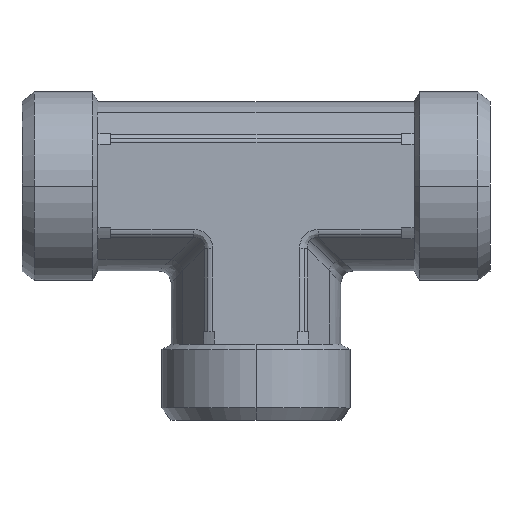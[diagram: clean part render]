
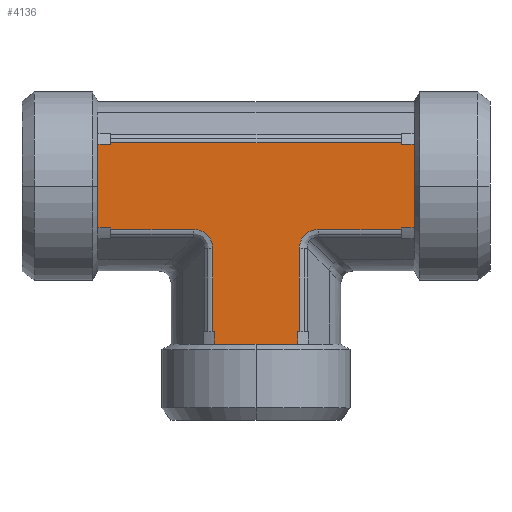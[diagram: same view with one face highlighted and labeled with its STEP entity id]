
A CAD part, left-side view. The second image highlights one B-rep face of the part: STEP entity #4136.
In plain terms, the highlighted planar face has unit normal (-1, 0, 0).
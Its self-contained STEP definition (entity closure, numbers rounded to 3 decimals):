
#668=CARTESIAN_POINT('',(-13.375,25.0,12.));
#669=VERTEX_POINT('',#668);
#769=CARTESIAN_POINT('',(-13.375,0.,-13.));
#770=VERTEX_POINT('',#769);
#843=CARTESIAN_POINT('',(-13.375,-25.0,12.));
#844=VERTEX_POINT('',#843);
#952=CARTESIAN_POINT('',(-13.375,9.887,5.144));
#953=VERTEX_POINT('',#952);
#961=CARTESIAN_POINT('',(-13.375,23.,5.144));
#962=VERTEX_POINT('',#961);
#963=CARTESIAN_POINT('',(-13.375,9.887,5.144));
#964=DIRECTION('',(0.0,1.0,0.0));
#965=VECTOR('',#964,13.113);
#966=LINE('',#963,#965);
#967=EDGE_CURVE('',#953,#962,#966,.T.);
#1320=CARTESIAN_POINT('',(-13.375,-6.856,2.113));
#1321=VERTEX_POINT('',#1320);
#1329=CARTESIAN_POINT('',(-13.375,-6.856,-11.));
#1330=VERTEX_POINT('',#1329);
#1331=CARTESIAN_POINT('',(-13.375,-6.856,2.113));
#1332=DIRECTION('',(0.0,0.0,-1.0));
#1333=VECTOR('',#1332,13.113);
#1334=LINE('',#1331,#1333);
#1335=EDGE_CURVE('',#1321,#1330,#1334,.T.);
#1726=CARTESIAN_POINT('',(-13.375,23.,18.856));
#1727=VERTEX_POINT('',#1726);
#1735=CARTESIAN_POINT('',(-13.375,-23.,18.856));
#1736=VERTEX_POINT('',#1735);
#1737=CARTESIAN_POINT('',(-13.375,23.,18.856));
#1738=DIRECTION('',(0.0,-1.0,0.0));
#1739=VECTOR('',#1738,46.0);
#1740=LINE('',#1737,#1739);
#1741=EDGE_CURVE('',#1727,#1736,#1740,.T.);
#2183=CARTESIAN_POINT('',(-13.375,-23.,5.411));
#2184=VERTEX_POINT('',#2183);
#2192=CARTESIAN_POINT('',(-13.375,-23.,5.144));
#2193=VERTEX_POINT('',#2192);
#2194=CARTESIAN_POINT('',(-13.375,-23.,5.144));
#2195=DIRECTION('',(0.0,0.0,1.0));
#2196=VECTOR('',#2195,0.267);
#2197=LINE('',#2194,#2196);
#2198=EDGE_CURVE('',#2193,#2184,#2197,.T.);
#2216=CARTESIAN_POINT('',(-13.375,-23.,18.589));
#2217=VERTEX_POINT('',#2216);
#2218=CARTESIAN_POINT('',(-13.375,-23.,18.589));
#2219=DIRECTION('',(0.0,0.0,1.0));
#2220=VECTOR('',#2219,0.267);
#2221=LINE('',#2218,#2220);
#2222=EDGE_CURVE('',#2217,#1736,#2221,.T.);
#2297=CARTESIAN_POINT('',(-13.375,-25.0,5.411));
#2298=VERTEX_POINT('',#2297);
#2306=CARTESIAN_POINT('',(-13.375,-23.,5.411));
#2307=DIRECTION('',(0.0,-1.0,0.0));
#2308=VECTOR('',#2307,2.);
#2309=LINE('',#2306,#2308);
#2310=EDGE_CURVE('',#2184,#2298,#2309,.T.);
#2371=CARTESIAN_POINT('',(-13.375,-25.0,18.589));
#2372=VERTEX_POINT('',#2371);
#2373=CARTESIAN_POINT('',(-13.375,-25.0,18.589));
#2374=DIRECTION('',(0.0,1.0,0.0));
#2375=VECTOR('',#2374,2.);
#2376=LINE('',#2373,#2375);
#2377=EDGE_CURVE('',#2372,#2217,#2376,.T.);
#2536=CARTESIAN_POINT('',(-13.375,-9.887,5.144));
#2537=VERTEX_POINT('',#2536);
#2538=CARTESIAN_POINT('',(-13.375,-23.,5.144));
#2539=DIRECTION('',(0.0,1.0,0.0));
#2540=VECTOR('',#2539,13.113);
#2541=LINE('',#2538,#2540);
#2542=EDGE_CURVE('',#2193,#2537,#2541,.T.);
#2718=CARTESIAN_POINT('',(-13.375,6.589,-11.));
#2719=VERTEX_POINT('',#2718);
#2727=CARTESIAN_POINT('',(-13.375,6.856,-11.));
#2728=VERTEX_POINT('',#2727);
#2729=CARTESIAN_POINT('',(-13.375,6.856,-11.));
#2730=DIRECTION('',(0.0,-1.0,0.0));
#2731=VECTOR('',#2730,0.267);
#2732=LINE('',#2729,#2731);
#2733=EDGE_CURVE('',#2728,#2719,#2732,.T.);
#2751=CARTESIAN_POINT('',(-13.375,-6.589,-11.));
#2752=VERTEX_POINT('',#2751);
#2753=CARTESIAN_POINT('',(-13.375,-6.589,-11.));
#2754=DIRECTION('',(0.0,-1.0,0.0));
#2755=VECTOR('',#2754,0.267);
#2756=LINE('',#2753,#2755);
#2757=EDGE_CURVE('',#2752,#1330,#2756,.T.);
#2865=CARTESIAN_POINT('',(-13.375,-6.589,-13.0));
#2866=VERTEX_POINT('',#2865);
#2867=CARTESIAN_POINT('',(-13.375,-6.589,-13.0));
#2868=DIRECTION('',(0.0,0.0,1.0));
#2869=VECTOR('',#2868,2.);
#2870=LINE('',#2867,#2869);
#2871=EDGE_CURVE('',#2866,#2752,#2870,.T.);
#2905=CARTESIAN_POINT('',(-13.375,6.589,-13.0));
#2906=VERTEX_POINT('',#2905);
#2914=CARTESIAN_POINT('',(-13.375,6.589,-11.));
#2915=DIRECTION('',(0.0,0.0,-1.0));
#2916=VECTOR('',#2915,2.);
#2917=LINE('',#2914,#2916);
#2918=EDGE_CURVE('',#2719,#2906,#2917,.T.);
#3150=CARTESIAN_POINT('',(-13.375,6.856,2.113));
#3151=VERTEX_POINT('',#3150);
#3152=CARTESIAN_POINT('',(-13.375,6.856,-11.));
#3153=DIRECTION('',(0.0,0.0,1.0));
#3154=VECTOR('',#3153,13.113);
#3155=LINE('',#3152,#3154);
#3156=EDGE_CURVE('',#2728,#3151,#3155,.T.);
#3398=CARTESIAN_POINT('',(-13.375,23.,18.589));
#3399=VERTEX_POINT('',#3398);
#3400=CARTESIAN_POINT('',(-13.375,23.,18.856));
#3401=DIRECTION('',(0.0,0.0,-1.0));
#3402=VECTOR('',#3401,0.267);
#3403=LINE('',#3400,#3402);
#3404=EDGE_CURVE('',#1727,#3399,#3403,.T.);
#3424=CARTESIAN_POINT('',(-13.375,23.,5.411));
#3425=VERTEX_POINT('',#3424);
#3426=CARTESIAN_POINT('',(-13.375,23.,5.411));
#3427=DIRECTION('',(0.0,0.0,-1.0));
#3428=VECTOR('',#3427,0.267);
#3429=LINE('',#3426,#3428);
#3430=EDGE_CURVE('',#3425,#962,#3429,.T.);
#3497=CARTESIAN_POINT('',(-13.375,25.0,18.589));
#3498=VERTEX_POINT('',#3497);
#3499=CARTESIAN_POINT('',(-13.375,23.,18.589));
#3500=DIRECTION('',(0.0,1.0,0.0));
#3501=VECTOR('',#3500,2.);
#3502=LINE('',#3499,#3501);
#3503=EDGE_CURVE('',#3399,#3498,#3502,.T.);
#3572=CARTESIAN_POINT('',(-13.375,25.0,5.411));
#3573=VERTEX_POINT('',#3572);
#3574=CARTESIAN_POINT('',(-13.375,25.0,5.411));
#3575=DIRECTION('',(0.0,-1.0,0.0));
#3576=VECTOR('',#3575,2.);
#3577=LINE('',#3574,#3576);
#3578=EDGE_CURVE('',#3573,#3425,#3577,.T.);
#3680=CARTESIAN_POINT('',(-13.375,25.0,18.589));
#3681=DIRECTION('',(0.0,0.0,-1.0));
#3682=VECTOR('',#3681,6.589);
#3683=LINE('',#3680,#3682);
#3684=EDGE_CURVE('',#3498,#669,#3683,.T.);
#3870=CARTESIAN_POINT('',(-13.375,-25.0,12.));
#3871=DIRECTION('',(0.0,0.0,1.0));
#3872=VECTOR('',#3871,6.589);
#3873=LINE('',#3870,#3872);
#3874=EDGE_CURVE('',#844,#2372,#3873,.T.);
#3949=CARTESIAN_POINT('',(-13.375,0.,-13.));
#3950=DIRECTION('',(0.0,-1.0,0.0));
#3951=VECTOR('',#3950,6.589);
#3952=LINE('',#3949,#3951);
#3953=EDGE_CURVE('',#770,#2866,#3952,.T.);
#3990=CARTESIAN_POINT('',(-13.375,6.589,-13.0));
#3991=DIRECTION('',(0.0,-1.0,0.0));
#3992=VECTOR('',#3991,6.589);
#3993=LINE('',#3990,#3992);
#3994=EDGE_CURVE('',#2906,#770,#3993,.T.);
#4059=CARTESIAN_POINT('',(-13.375,25.0,12.));
#4060=DIRECTION('',(0.0,0.0,-1.0));
#4061=VECTOR('',#4060,6.589);
#4062=LINE('',#4059,#4061);
#4063=EDGE_CURVE('',#669,#3573,#4062,.T.);
#4083=CARTESIAN_POINT('',(-13.375,-25.0,5.411));
#4084=DIRECTION('',(0.0,0.0,1.0));
#4085=VECTOR('',#4084,6.589);
#4086=LINE('',#4083,#4085);
#4087=EDGE_CURVE('',#2298,#844,#4086,.T.);
#4092=CARTESIAN_POINT('',(-13.375,7.722,12.0));
#4093=DIRECTION('',(-1.0,0.0,0.0));
#4094=DIRECTION('',(0.0,0.0,1.0));
#4095=AXIS2_PLACEMENT_3D('',#4092,#4093,#4094);
#4096=PLANE('',#4095);
#4097=ORIENTED_EDGE('',*,*,#2222,.T.);
#4098=ORIENTED_EDGE('',*,*,#1741,.F.);
#4099=ORIENTED_EDGE('',*,*,#3404,.T.);
#4100=ORIENTED_EDGE('',*,*,#3503,.T.);
#4101=ORIENTED_EDGE('',*,*,#3684,.T.);
#4102=ORIENTED_EDGE('',*,*,#4063,.T.);
#4103=ORIENTED_EDGE('',*,*,#3578,.T.);
#4104=ORIENTED_EDGE('',*,*,#3430,.T.);
#4105=ORIENTED_EDGE('',*,*,#967,.F.);
#4106=CARTESIAN_POINT('',(-13.375,10.897,1.103));
#4107=DIRECTION('',(-1.,0.,0.));
#4108=DIRECTION('',(0.,-0.707,0.707));
#4109=AXIS2_PLACEMENT_3D('',#4106,#4107,#4108);
#4110=ELLIPSE('',#4109,4.518,3.5);
#4111=EDGE_CURVE('',#3151,#953,#4110,.T.);
#4112=ORIENTED_EDGE('',*,*,#4111,.F.);
#4113=ORIENTED_EDGE('',*,*,#3156,.F.);
#4114=ORIENTED_EDGE('',*,*,#2733,.T.);
#4115=ORIENTED_EDGE('',*,*,#2918,.T.);
#4116=ORIENTED_EDGE('',*,*,#3994,.T.);
#4117=ORIENTED_EDGE('',*,*,#3953,.T.);
#4118=ORIENTED_EDGE('',*,*,#2871,.T.);
#4119=ORIENTED_EDGE('',*,*,#2757,.T.);
#4120=ORIENTED_EDGE('',*,*,#1335,.F.);
#4121=CARTESIAN_POINT('',(-13.375,-10.897,1.103));
#4122=DIRECTION('',(-1.,0.,0.));
#4123=DIRECTION('',(0.,0.707,0.707));
#4124=AXIS2_PLACEMENT_3D('',#4121,#4122,#4123);
#4125=ELLIPSE('',#4124,4.518,3.5);
#4126=EDGE_CURVE('',#2537,#1321,#4125,.T.);
#4127=ORIENTED_EDGE('',*,*,#4126,.F.);
#4128=ORIENTED_EDGE('',*,*,#2542,.F.);
#4129=ORIENTED_EDGE('',*,*,#2198,.T.);
#4130=ORIENTED_EDGE('',*,*,#2310,.T.);
#4131=ORIENTED_EDGE('',*,*,#4087,.T.);
#4132=ORIENTED_EDGE('',*,*,#3874,.T.);
#4133=ORIENTED_EDGE('',*,*,#2377,.T.);
#4134=EDGE_LOOP('',(#4097,#4098,#4099,#4100,#4101,#4102,#4103,#4104,#4105,#4112,#4113,#4114,#4115,#4116,#4117,#4118,#4119,#4120,#4127,#4128,#4129,#4130,#4131,#4132,#4133));
#4135=FACE_OUTER_BOUND('',#4134,.T.);
#4136=ADVANCED_FACE('',(#4135),#4096,.T.);
